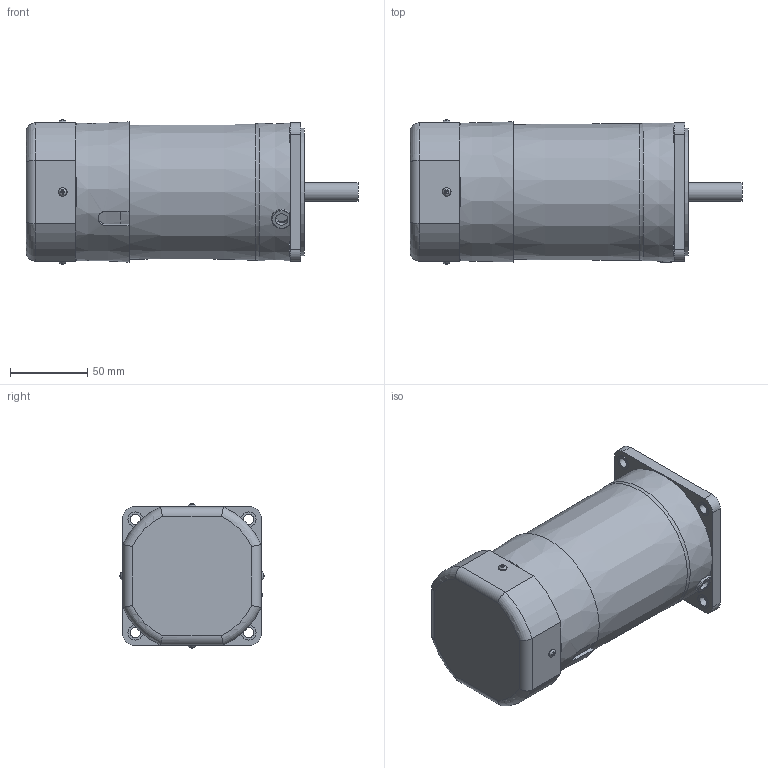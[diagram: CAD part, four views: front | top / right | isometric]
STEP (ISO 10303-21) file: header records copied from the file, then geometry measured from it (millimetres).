
FILE_DESCRIPTION((''),'2;1');
FILE_NAME('D:\김성묵\업무폴더\개발 파일\프로젝트 개발 AB등급\AC표준형 개발자료\90각 이하 표준형 개발\도면작성 자료\3D 도면\홈페이지용 3D 파일\90W MOTOR\BLACK TYPE\S9I90S-E.stp','2015-03-26T14:14:59',('smkim'),(''),'Autodesk Inventor 2012','Autodesk Inventor 2012','');
FILE_SCHEMA(('AUTOMOTIVE_DESIGN { 1 0 10303 214 1 1 1 1 }'));
Length unit declared in the file: millimetre
Products named in the file (7): S9I90S-E; S9I90GㅁCE; 6_CORD BUSH; FAN COVER; 552300620; S9I60S; 60W 전자BK COVER
Assembly tree (9 placements, depth 2):
  S9I90S-E
    S9I90GㅁCE
    6_CORD BUSH
    FAN COVER
    552300620  x4
    S9I60S
    60W 전자BK COVER
Bounding box: 215.3 x 93.49 x 93.49 mm (x, y, z)
Volume: 1266430.3 mm3; surface area: 121215.4 mm2
Topology: 9 solids, 10 shells, 241 faces, 560 edges, 363 vertices
Faces by surface type: plane 148, cylinder 61, cone 14, torus 14, bspline 4
Full cylindrical faces by diameter (mm): 3 x8, 3.5 x4, 5.6 x4, 6.5 x4, 8 x1, 9.5 x4, 10 x1, 12 x1, 28 x1, 34 x1, 40 x1, 60 x1, 66 x1, 80 x1, 83 x1, 86 x2, 86.3 x1
Entity records: 5382 total; most frequent: CARTESIAN_POINT 1275, DIRECTION 834, ORIENTED_EDGE 714, EDGE_CURVE 357, AXIS2_PLACEMENT_3D 329, EDGE_LOOP 261, VERTEX_POINT 260, FACE_OUTER_BOUND 178
